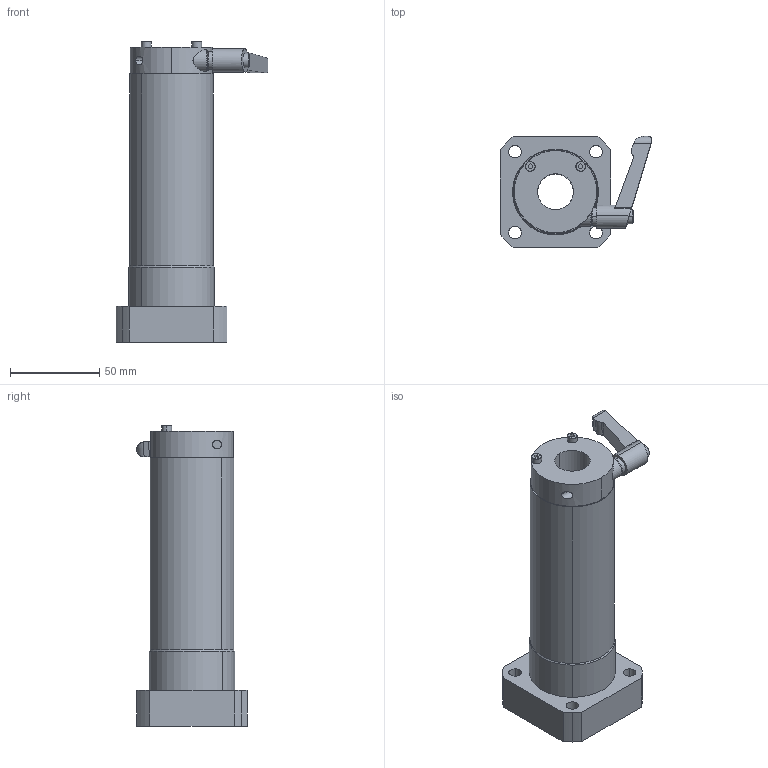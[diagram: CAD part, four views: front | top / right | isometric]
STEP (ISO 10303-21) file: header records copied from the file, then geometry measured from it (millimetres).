
FILE_DESCRIPTION (( 'STEP AP214' ), '1' );
FILE_NAME ('LFWL20AMF-C.STEP', '2023-06-27T04:23:15', ( '' ), ( '' ), 'SwSTEP 2.0', 'SolidWorks 2019', '' );
FILE_SCHEMA (( 'AUTOMOTIVE_DESIGN' ));
Length unit declared in the file: millimetre
Products named in the file (3): LFWL20AMF; “ÁSCK2015CO-S3.4; LFWL20AMF-C
Assembly tree (2 placements, depth 2):
  LFWL20AMF-C
    LFWL20AMF
    “ÁSCK2015CO-S3.4
Bounding box: 84.9 x 62 x 168 mm (x, y, z)
Volume: 274344 mm3; surface area: 56778.8 mm2
Topology: 3 solids, 9 shells, 210 faces, 513 edges, 326 vertices
Faces by surface type: cylinder 85, plane 61, bspline 43, cone 13, torus 8
Entity records: 9157 total; most frequent: CARTESIAN_POINT 1991, DIRECTION 1082, ORIENTED_EDGE 1026, EDGE_CURVE 513, AXIS2_PLACEMENT_3D 443, VERTEX_POINT 326, CIRCLE 271, EDGE_LOOP 255
